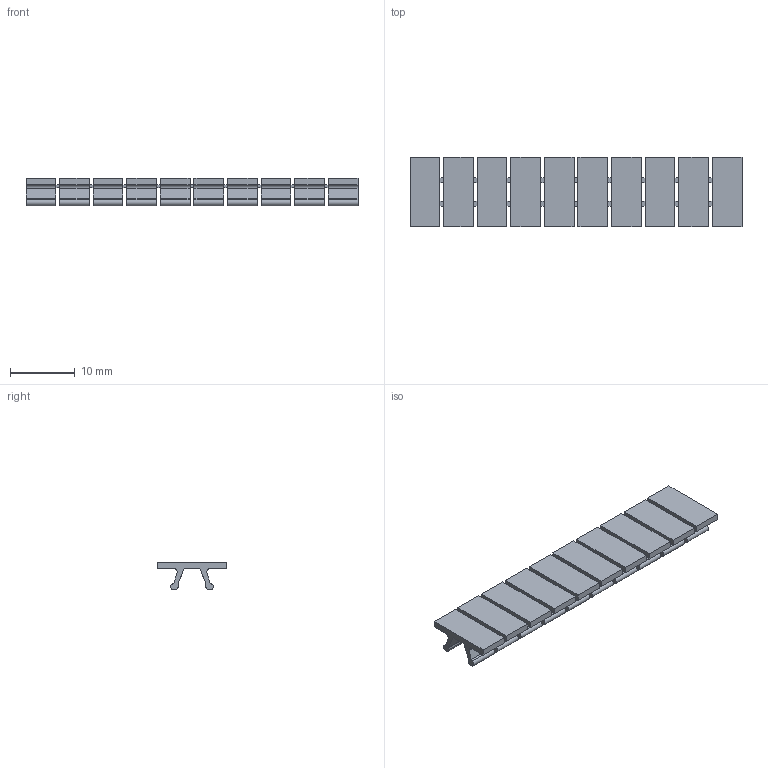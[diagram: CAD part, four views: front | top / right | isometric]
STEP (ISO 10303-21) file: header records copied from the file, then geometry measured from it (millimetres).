
FILE_DESCRIPTION(/* description */ (''),/* implementation_level */ '2;1');
FILE_NAME(/* name */ 'ZB5.stp',/* time_stamp */ '2023-02-17T15:59:45+08:00',/* author */ (''),/* organization */ (''),/* preprocessor_version */ 'ST-DEVELOPER v16.7',/* originating_system */ 'SIEMENS PLM Software NX 12.0',/* authorisation */ '');
FILE_SCHEMA (('AP203_CONFIGURATION_CONTROLLED_3D_DESIGN_OF_MECHANICAL_PARTS_AND_ASSEMBLIES_MIM_LF { 1 0 10303 403 2 1 2}'));
Length unit declared in the file: millimetre
Products named in the file (1): Admi61A869AD7qer
Bounding box: 51.4 x 10.7 x 4.3 mm (x, y, z)
Volume: 764.3 mm3; surface area: 2019.3 mm2
Topology: 1 solids, 1 shells, 332 faces, 972 edges, 624 vertices
Faces by surface type: plane 232, cylinder 100
Entity records: 11018 total; most frequent: ORIENTED_EDGE 1944, CARTESIAN_POINT 1929, DIRECTION 1838, EDGE_CURVE 972, LINE 772, VECTOR 772, VERTEX_POINT 624, AXIS2_PLACEMENT_3D 533
